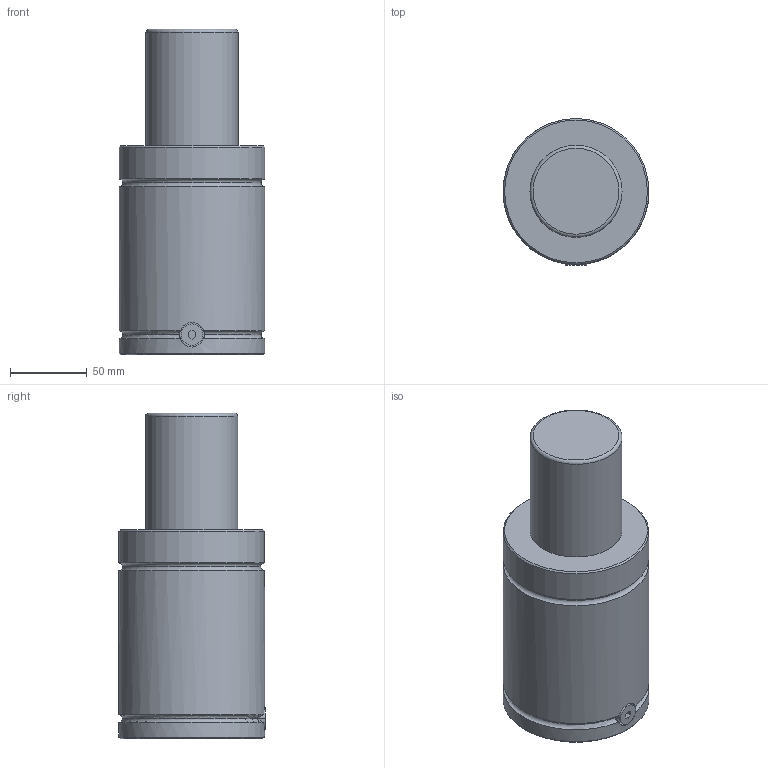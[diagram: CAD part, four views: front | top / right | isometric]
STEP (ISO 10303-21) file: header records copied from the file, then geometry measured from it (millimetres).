
FILE_DESCRIPTION(('FreeCAD Model'),'2;1');
FILE_NAME('Open CASCADE Shape Model','2024-11-13T17:13:43',('Author'),( ''),'Open CASCADE STEP processor 7.6','FreeCAD','Unknown');
FILE_SCHEMA(('AUTOMOTIVE_DESIGN { 1 0 10303 214 1 1 1 1 }'));
Length unit declared in the file: millimetre
Products named in the file (7): Unnamed1; Part005; Cut001; Part009; 3; Part014; Cut
Assembly tree (6 placements, depth 3):
  Unnamed1
    Part005
      Cut001
    Part009
      3
    Part014
      Cut
Bounding box: 95 x 95.5 x 212 mm (x, y, z)
Volume: 1167235.4 mm3; surface area: 78781.1 mm2
Topology: 3 solids, 4 shells, 46 faces, 84 edges, 52 vertices
Faces by surface type: plane 21, cylinder 14, torus 7, cone 4
Full cylindrical faces by diameter (mm): 8 x1, 12 x4, 16 x1, 60 x1, 95 x3
Entity records: 1493 total; most frequent: CARTESIAN_POINT 415, DIRECTION 226, ORIENTED_EDGE 168, AXIS2_PLACEMENT_3D 95, EDGE_CURVE 84, FACE_BOUND 52, EDGE_LOOP 52, VERTEX_POINT 52
